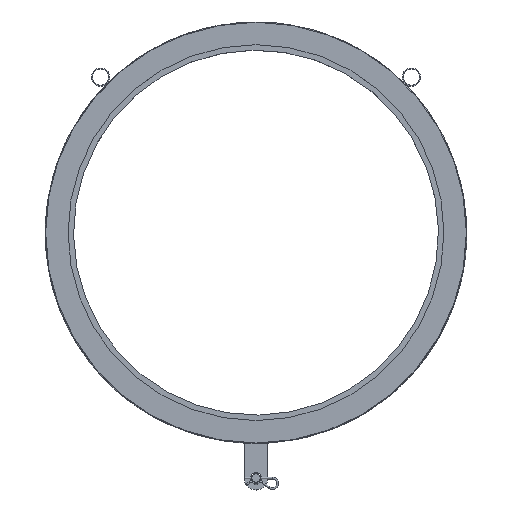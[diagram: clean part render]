
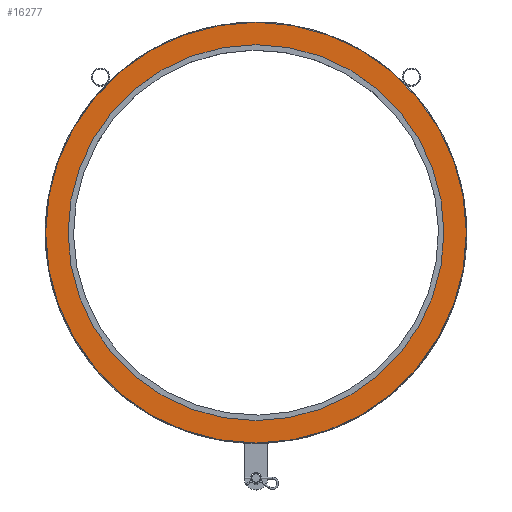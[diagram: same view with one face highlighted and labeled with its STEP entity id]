
A CAD part, top view. The second image highlights one B-rep face of the part: STEP entity #16277.
In plain terms, the highlighted planar face has unit normal (0, 0, 1).
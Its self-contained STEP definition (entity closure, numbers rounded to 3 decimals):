
#543=FACE_BOUND('',#3620,.T.);
#1749=PLANE('',#17199);
#2626=FACE_OUTER_BOUND('',#3619,.T.);
#3619=EDGE_LOOP('',(#14986));
#3620=EDGE_LOOP('',(#14987));
#6303=CIRCLE('',#17195,515.);
#6304=CIRCLE('',#17197,576.5);
#7895=VERTEX_POINT('',#38633);
#7896=VERTEX_POINT('',#38637);
#10275=EDGE_CURVE('',#7895,#7895,#6303,.T.);
#10277=EDGE_CURVE('',#7896,#7896,#6304,.T.);
#14986=ORIENTED_EDGE('',*,*,#10277,.F.);
#14987=ORIENTED_EDGE('',*,*,#10275,.T.);
#16277=ADVANCED_FACE('',(#2626,#543),#1749,.T.);
#17195=AXIS2_PLACEMENT_3D('',#38634,#20061,#20062);
#17197=AXIS2_PLACEMENT_3D('',#38638,#20066,#20067);
#17199=AXIS2_PLACEMENT_3D('',#38641,#20071,#20072);
#20061=DIRECTION('center_axis',(0.,0.,
-1.));
#20062=DIRECTION('ref_axis',(-1.,0.,0.));
#20066=DIRECTION('center_axis',(0.,0.,
-1.));
#20067=DIRECTION('ref_axis',(-1.,0.,0.));
#20071=DIRECTION('center_axis',(0.,0.,
1.));
#20072=DIRECTION('ref_axis',(-1.,0.,0.));
#38633=CARTESIAN_POINT('',(515.,0.,150.));
#38634=CARTESIAN_POINT('Origin',(0.,0.,
150.));
#38637=CARTESIAN_POINT('',(576.5,0.,150.));
#38638=CARTESIAN_POINT('Origin',(0.,0.,
150.));
#38641=CARTESIAN_POINT('Origin',(0.,0.,
150.));
